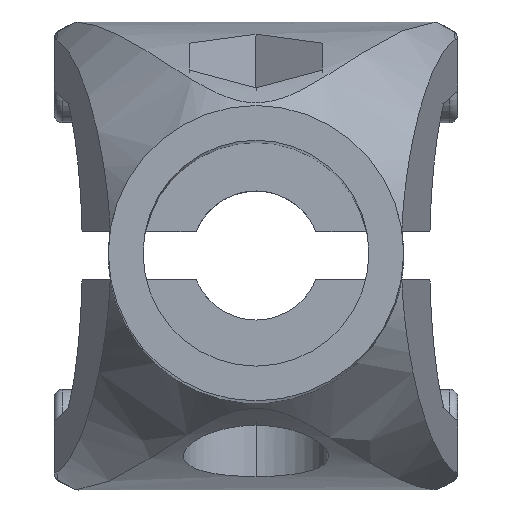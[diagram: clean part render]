
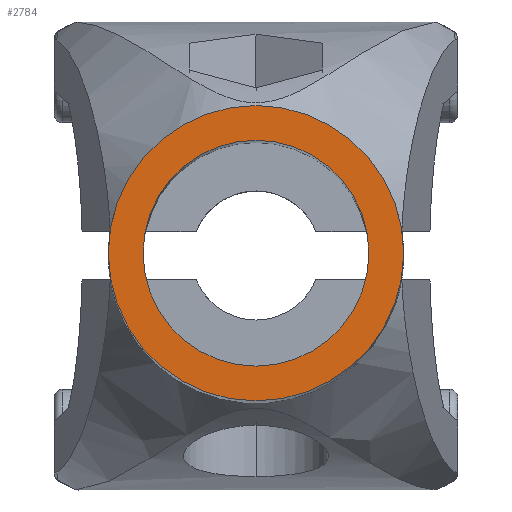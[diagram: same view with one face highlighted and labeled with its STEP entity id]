
A CAD part, top view. The second image highlights one B-rep face of the part: STEP entity #2784.
In plain terms, the highlighted planar face has unit normal (0, 0, 1).
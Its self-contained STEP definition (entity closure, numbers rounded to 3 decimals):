
#22 = CIRCLE ( 'NONE', #1555, 9.15 ) ;
#55 = EDGE_CURVE ( 'NONE', #1107, #348, #3865, .T. ) ;
#234 = DIRECTION ( 'NONE',  ( 0., 0., -1. ) ) ;
#300 = DIRECTION ( 'NONE',  ( 0., 0., 1. ) ) ;
#348 = VERTEX_POINT ( 'NONE', #3821 ) ;
#502 = EDGE_CURVE ( 'NONE', #3983, #1969, #935, .T. ) ;
#542 = CARTESIAN_POINT ( 'NONE',  ( 0., 0., 80. ) ) ;
#549 = CARTESIAN_POINT ( 'NONE',  ( 0., 0., 80. ) ) ;
#614 = DIRECTION ( 'NONE',  ( 1., 0., 0. ) ) ;
#865 = CARTESIAN_POINT ( 'NONE',  ( -7., 0., 80. ) ) ;
#935 = CIRCLE ( 'NONE', #1330, 9.15 ) ;
#1015 = CARTESIAN_POINT ( 'NONE',  ( 0., 0., 80. ) ) ;
#1070 = EDGE_CURVE ( 'NONE', #348, #1107, #3816, .T. ) ;
#1085 = DIRECTION ( 'NONE',  ( 0., 0., -1. ) ) ;
#1107 = VERTEX_POINT ( 'NONE', #865 ) ;
#1156 = DIRECTION ( 'NONE',  ( 0., 0., -1. ) ) ;
#1330 = AXIS2_PLACEMENT_3D ( 'NONE', #542, #1156, #3465 ) ;
#1372 = EDGE_CURVE ( 'NONE', #1969, #3983, #22, .T. ) ;
#1413 = EDGE_LOOP ( 'NONE', ( #2550, #3155 ) ) ;
#1423 = CARTESIAN_POINT ( 'NONE',  ( 0., 0., 80. ) ) ;
#1555 = AXIS2_PLACEMENT_3D ( 'NONE', #1015, #3643, #3304 ) ;
#1928 = PLANE ( 'NONE',  #3322 ) ;
#1969 = VERTEX_POINT ( 'NONE', #3591 ) ;
#2056 = ORIENTED_EDGE ( 'NONE', *, *, #55, .T. ) ;
#2259 = CARTESIAN_POINT ( 'NONE',  ( 0., 0., 80. ) ) ;
#2282 = FACE_BOUND ( 'NONE', #2811, .T. ) ;
#2353 = DIRECTION ( 'NONE',  ( 1., 0., 0. ) ) ;
#2502 = DIRECTION ( 'NONE',  ( 1., 0., 0. ) ) ;
#2550 = ORIENTED_EDGE ( 'NONE', *, *, #502, .F. ) ;
#2784 = ADVANCED_FACE ( 'NONE', ( #3268, #2282 ), #1928, .T. ) ;
#2811 = EDGE_LOOP ( 'NONE', ( #3060, #2056 ) ) ;
#3060 = ORIENTED_EDGE ( 'NONE', *, *, #1070, .T. ) ;
#3099 = CARTESIAN_POINT ( 'NONE',  ( 9.15, 0., 80. ) ) ;
#3155 = ORIENTED_EDGE ( 'NONE', *, *, #1372, .F. ) ;
#3231 = AXIS2_PLACEMENT_3D ( 'NONE', #1423, #1085, #2353 ) ;
#3268 = FACE_OUTER_BOUND ( 'NONE', #1413, .T. ) ;
#3304 = DIRECTION ( 'NONE',  ( 1., 0., 0. ) ) ;
#3322 = AXIS2_PLACEMENT_3D ( 'NONE', #2259, #300, #614 ) ;
#3465 = DIRECTION ( 'NONE',  ( 1., 0., 0. ) ) ;
#3591 = CARTESIAN_POINT ( 'NONE',  ( -9.15, 0., 80. ) ) ;
#3643 = DIRECTION ( 'NONE',  ( 0., 0., -1. ) ) ;
#3816 = CIRCLE ( 'NONE', #4185, 7. ) ;
#3821 = CARTESIAN_POINT ( 'NONE',  ( 7., 0., 80. ) ) ;
#3865 = CIRCLE ( 'NONE', #3231, 7. ) ;
#3983 = VERTEX_POINT ( 'NONE', #3099 ) ;
#4185 = AXIS2_PLACEMENT_3D ( 'NONE', #549, #234, #2502 ) ;
